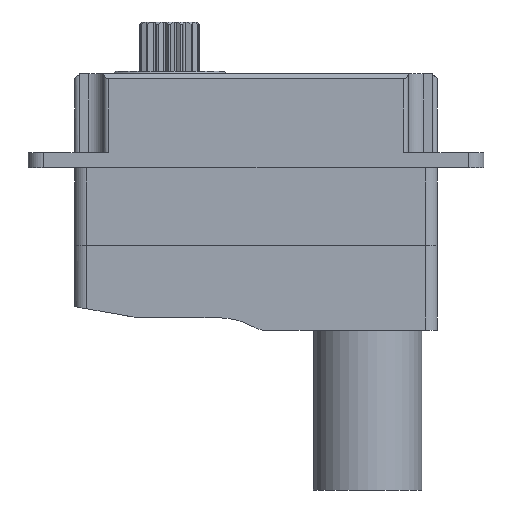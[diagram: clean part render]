
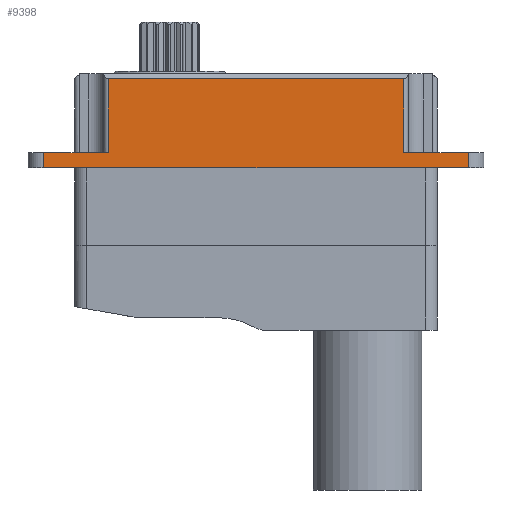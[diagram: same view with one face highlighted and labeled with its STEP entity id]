
A CAD part, front view. The second image highlights one B-rep face of the part: STEP entity #9398.
In plain terms, the highlighted planar face has unit normal (0, -1, 0).
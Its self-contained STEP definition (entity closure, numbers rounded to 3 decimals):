
#61 = CARTESIAN_POINT ( 'NONE',  ( -102.827, 10.93, 5.875 ) ) ;
#107 = CARTESIAN_POINT ( 'NONE',  ( -102.827, 10.93, 11.658 ) ) ;
#520 = CARTESIAN_POINT ( 'NONE',  ( -98.077, 10.93, 3.725 ) ) ;
#743 = VECTOR ( 'NONE', #11771, 1000. ) ;
#871 = EDGE_CURVE ( 'NONE', #10740, #7469, #5120, .T. ) ;
#1018 = VERTEX_POINT ( 'NONE', #8130 ) ;
#1272 = LINE ( 'NONE', #6852, #8783 ) ;
#1737 = EDGE_CURVE ( 'NONE', #1018, #3403, #3777, .T. ) ;
#2581 = DIRECTION ( 'NONE',  ( 0., 0., 1. ) ) ;
#2583 = VECTOR ( 'NONE', #6197, 1000. ) ;
#2846 = EDGE_CURVE ( 'NONE', #5402, #3959, #1272, .T. ) ;
#2894 = CARTESIAN_POINT ( 'NONE',  ( -78.977, 10.93, 6.875 ) ) ;
#3362 = CARTESIAN_POINT ( 'NONE',  ( -102.827, 10.93, 6.875 ) ) ;
#3403 = VERTEX_POINT ( 'NONE', #10703 ) ;
#3592 = LINE ( 'NONE', #61, #3741 ) ;
#3741 = VECTOR ( 'NONE', #9448, 1000. ) ;
#3777 = LINE ( 'NONE', #8010, #2583 ) ;
#3827 = ORIENTED_EDGE ( 'NONE', *, *, #8116, .T. ) ;
#3900 = CARTESIAN_POINT ( 'NONE',  ( -98.077, 10.93, 6.875 ) ) ;
#3959 = VERTEX_POINT ( 'NONE', #2894 ) ;
#4075 = LINE ( 'NONE', #520, #9363 ) ;
#4094 = DIRECTION ( 'NONE',  ( 0., -1., 0. ) ) ;
#4201 = EDGE_CURVE ( 'NONE', #3959, #10740, #4786, .T. ) ;
#4368 = CARTESIAN_POINT ( 'NONE',  ( -78.977, 10.93, 3.725 ) ) ;
#4573 = ORIENTED_EDGE ( 'NONE', *, *, #1737, .T. ) ;
#4716 = DIRECTION ( 'NONE',  ( 0., 0., 1. ) ) ;
#4786 = LINE ( 'NONE', #4368, #7259 ) ;
#4847 = EDGE_LOOP ( 'NONE', ( #10886, #7546, #9441, #8056, #3827, #7335, #4573, #5180 ) ) ;
#5120 = LINE ( 'NONE', #107, #5568 ) ;
#5180 = ORIENTED_EDGE ( 'NONE', *, *, #8901, .T. ) ;
#5402 = VERTEX_POINT ( 'NONE', #7459 ) ;
#5568 = VECTOR ( 'NONE', #7725, 1000. ) ;
#6124 = DIRECTION ( 'NONE',  ( 0., 0., -1. ) ) ;
#6178 = LINE ( 'NONE', #3362, #743 ) ;
#6197 = DIRECTION ( 'NONE',  ( 0., 0., -1. ) ) ;
#6852 = CARTESIAN_POINT ( 'NONE',  ( -102.827, 10.93, 6.875 ) ) ;
#6942 = EDGE_CURVE ( 'NONE', #10999, #1018, #6178, .T. ) ;
#6961 = CARTESIAN_POINT ( 'NONE',  ( -102.827, 10.93, 3.725 ) ) ;
#7167 = CARTESIAN_POINT ( 'NONE',  ( -98.077, 10.93, 11.658 ) ) ;
#7259 = VECTOR ( 'NONE', #2581, 1000. ) ;
#7335 = ORIENTED_EDGE ( 'NONE', *, *, #6942, .T. ) ;
#7459 = CARTESIAN_POINT ( 'NONE',  ( -74.777, 10.93, 6.875 ) ) ;
#7469 = VERTEX_POINT ( 'NONE', #7167 ) ;
#7510 = AXIS2_PLACEMENT_3D ( 'NONE', #6961, #4094, #7755 ) ;
#7546 = ORIENTED_EDGE ( 'NONE', *, *, #2846, .T. ) ;
#7665 = VECTOR ( 'NONE', #4716, 1000. ) ;
#7725 = DIRECTION ( 'NONE',  ( -1., 0., 0. ) ) ;
#7755 = DIRECTION ( 'NONE',  ( 0., 0., -1. ) ) ;
#7794 = VERTEX_POINT ( 'NONE', #9521 ) ;
#8010 = CARTESIAN_POINT ( 'NONE',  ( -102.277, 10.93, 3.725 ) ) ;
#8056 = ORIENTED_EDGE ( 'NONE', *, *, #871, .T. ) ;
#8116 = EDGE_CURVE ( 'NONE', #7469, #10999, #4075, .T. ) ;
#8130 = CARTESIAN_POINT ( 'NONE',  ( -102.277, 10.93, 6.875 ) ) ;
#8783 = VECTOR ( 'NONE', #9762, 1000. ) ;
#8901 = EDGE_CURVE ( 'NONE', #3403, #7794, #3592, .T. ) ;
#9363 = VECTOR ( 'NONE', #6124, 1000. ) ;
#9398 = ADVANCED_FACE ( 'NONE', ( #11659 ), #9566, .T. ) ;
#9441 = ORIENTED_EDGE ( 'NONE', *, *, #4201, .T. ) ;
#9448 = DIRECTION ( 'NONE',  ( 1., 0., 0. ) ) ;
#9521 = CARTESIAN_POINT ( 'NONE',  ( -74.777, 10.93, 5.875 ) ) ;
#9566 = PLANE ( 'NONE',  #7510 ) ;
#9762 = DIRECTION ( 'NONE',  ( -1., 0., 0. ) ) ;
#10703 = CARTESIAN_POINT ( 'NONE',  ( -102.277, 10.93, 5.875 ) ) ;
#10740 = VERTEX_POINT ( 'NONE', #12029 ) ;
#10886 = ORIENTED_EDGE ( 'NONE', *, *, #10911, .T. ) ;
#10911 = EDGE_CURVE ( 'NONE', #7794, #5402, #11887, .T. ) ;
#10999 = VERTEX_POINT ( 'NONE', #3900 ) ;
#11341 = CARTESIAN_POINT ( 'NONE',  ( -74.777, 10.93, 3.725 ) ) ;
#11659 = FACE_OUTER_BOUND ( 'NONE', #4847, .T. ) ;
#11771 = DIRECTION ( 'NONE',  ( -1., 0., 0. ) ) ;
#11887 = LINE ( 'NONE', #11341, #7665 ) ;
#12029 = CARTESIAN_POINT ( 'NONE',  ( -78.977, 10.93, 11.658 ) ) ;
